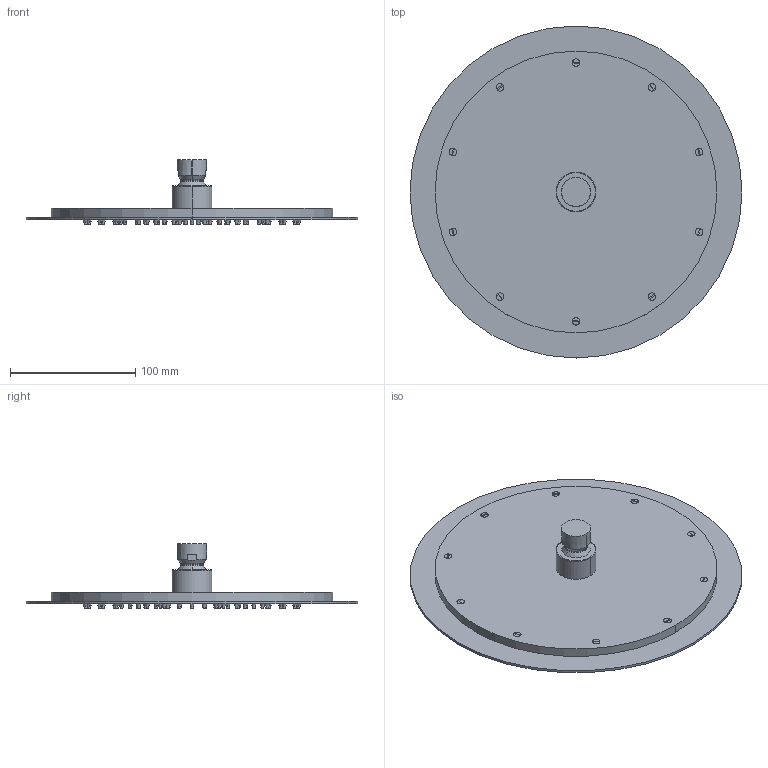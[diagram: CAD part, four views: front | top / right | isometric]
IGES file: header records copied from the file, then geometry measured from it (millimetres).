
Start section:  PTC IGES file: 90916.igs
Global section: file name: 90916.igs; native system: Creo Parametric by PTC Inc.; preprocessor: 2018100; author: carloff; organization: Unknown; date: 20210503.115805; units: millimetre
Bounding box: 265 x 265 x 51.7 mm (x, y, z)
Surface area: 122658 mm2 (no closed solid volume)
Topology: 0 solids, 0 shells, 538 faces, 2186 edges, 2186 vertices
Faces by surface type: revolution 399, bspline 139
